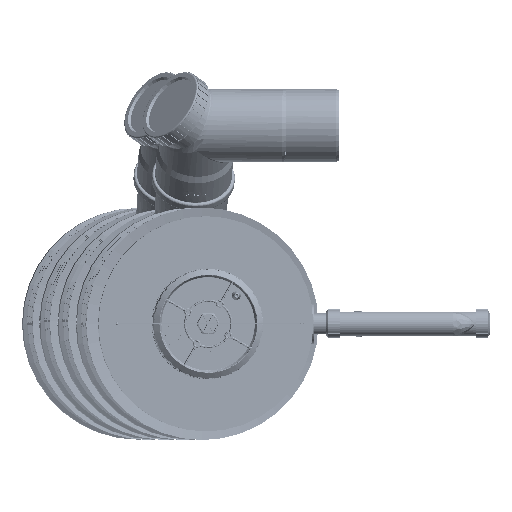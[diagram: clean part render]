
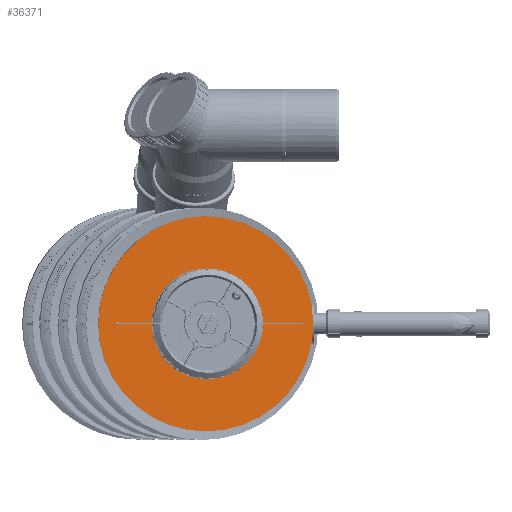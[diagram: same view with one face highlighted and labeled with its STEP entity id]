
A CAD part, left-side view. The second image highlights one B-rep face of the part: STEP entity #36371.
In plain terms, the highlighted planar face has unit normal (-0.999, -0.052, 0) as drawn and (0, 1, 0) by its records, which use the part's own axes.
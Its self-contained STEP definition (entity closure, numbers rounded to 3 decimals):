
#36140=CARTESIAN_POINT('',(0.,10.,0.));
#36141=DIRECTION('',(0.,1.,0.));
#36142=DIRECTION('',(-1.,0.,0.));
#36143=AXIS2_PLACEMENT_3D('',#36140,#36141,#36142);
#36148=CARTESIAN_POINT('',(0.,10.,0.));
#36149=DIRECTION('',(0.,-1.,0.));
#36150=DIRECTION('',(-1.,0.,0.));
#36151=AXIS2_PLACEMENT_3D('',#36148,#36149,#36150);
#36156=CARTESIAN_POINT('',(0.,10.,0.));
#36157=DIRECTION('',(0.,-1.,0.));
#36158=DIRECTION('',(-1.,0.,0.));
#36159=AXIS2_PLACEMENT_3D('',#36156,#36157,#36158);
#36178=CARTESIAN_POINT('',(0.,10.,0.));
#36179=DIRECTION('',(0.,1.,0.));
#36180=DIRECTION('',(-1.,0.,0.));
#36181=AXIS2_PLACEMENT_3D('',#36178,#36179,#36180);
#36295=CARTESIAN_POINT('',(-162.5,10.,0.));
#36297=VERTEX_POINT('',#36295);
#36298=CARTESIAN_POINT('',(-80.,10.,0.));
#36300=VERTEX_POINT('',#36298);
#36311=CARTESIAN_POINT('',(162.5,10.,0.));
#36313=VERTEX_POINT('',#36311);
#36314=CARTESIAN_POINT('',(80.,10.,0.));
#36316=VERTEX_POINT('',#36314);
#36356=CARTESIAN_POINT('',(0.,10.,0.));
#36357=DIRECTION('',(0.,-1.,0.));
#36358=DIRECTION('',(1.,0.,0.));
#36359=AXIS2_PLACEMENT_3D('',#36356,#36357,#36358);
#36360=PLANE('162',#36359);
#36361=ORIENTED_EDGE('197',*,*,#36348,.F.);
#36362=ORIENTED_EDGE('163',*,*,#36337,.T.);
#36363=EDGE_LOOP('162',(#36361,#36362));
#36364=FACE_OUTER_BOUND('162',#36363,.F.);
#36366=ORIENTED_EDGE('165',*,*,#36365,.F.);
#36368=ORIENTED_EDGE('199',*,*,#36367,.T.);
#36369=EDGE_LOOP('162',(#36366,#36368));
#36370=FACE_BOUND('162',#36369,.F.);
#36144=CIRCLE('197',#36143,162.5);
#36152=CIRCLE('163',#36151,162.5);
#36160=CIRCLE('165',#36159,80.);
#36182=CIRCLE('199',#36181,80.);
#36337=EDGE_CURVE('163',#36297,#36313,#36152,.T.);
#36348=EDGE_CURVE('197',#36297,#36313,#36144,.T.);
#36365=EDGE_CURVE('165',#36300,#36316,#36160,.T.);
#36367=EDGE_CURVE('199',#36300,#36316,#36182,.T.);
#36371=ADVANCED_FACE('162',(#36364,#36370),#36360,.F.);
